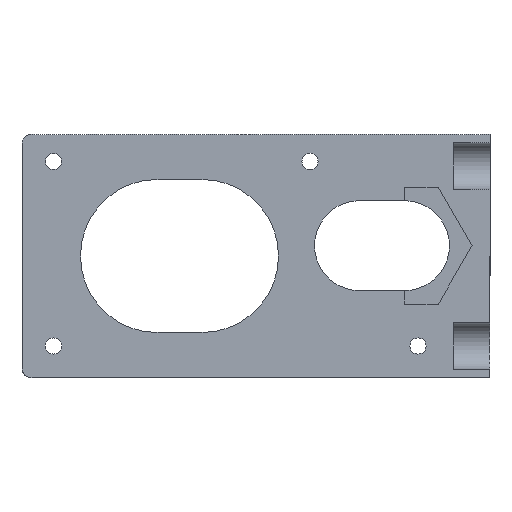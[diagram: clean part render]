
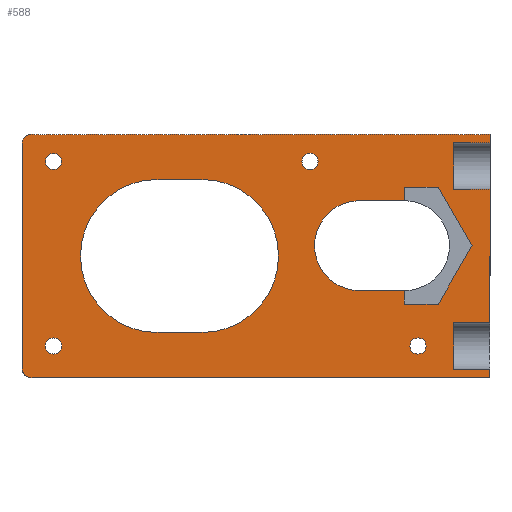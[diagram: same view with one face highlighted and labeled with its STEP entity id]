
A CAD part, left-side view. The second image highlights one B-rep face of the part: STEP entity #588.
In plain terms, the highlighted planar face has unit normal (-1, 0, 0).
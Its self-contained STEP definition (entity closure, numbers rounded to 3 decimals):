
#15=FACE_BOUND('',#108,.T.);
#16=FACE_BOUND('',#109,.T.);
#17=FACE_BOUND('',#110,.T.);
#18=FACE_BOUND('',#111,.T.);
#19=FACE_BOUND('',#112,.T.);
#20=FACE_BOUND('',#113,.T.);
#31=PLANE('',#644);
#50=CIRCLE('',#641,1.);
#51=CIRCLE('',#643,1.);
#52=CIRCLE('',#645,8.5);
#53=CIRCLE('',#646,8.5);
#54=CIRCLE('',#647,5.);
#55=CIRCLE('',#648,0.9);
#56=CIRCLE('',#649,0.9);
#57=CIRCLE('',#650,0.9);
#58=CIRCLE('',#651,0.9);
#75=FACE_OUTER_BOUND('',#107,.T.);
#107=EDGE_LOOP('',(#420,#421,#422,#423,#424,#425,#426,#427,#428,#429,#430,
#431,#432,#433));
#108=EDGE_LOOP('',(#434,#435,#436,#437));
#109=EDGE_LOOP('',(#438,#439,#440,#441,#442,#443,#444,#445,#446));
#110=EDGE_LOOP('',(#447));
#111=EDGE_LOOP('',(#448));
#112=EDGE_LOOP('',(#449));
#113=EDGE_LOOP('',(#450));
#160=LINE('',#888,#218);
#161=LINE('',#890,#219);
#162=LINE('',#892,#220);
#163=LINE('',#894,#221);
#164=LINE('',#896,#222);
#165=LINE('',#898,#223);
#166=LINE('',#900,#224);
#167=LINE('',#902,#225);
#168=LINE('',#904,#226);
#169=LINE('',#906,#227);
#170=LINE('',#908,#228);
#171=LINE('',#909,#229);
#172=LINE('',#914,#230);
#173=LINE('',#917,#231);
#174=LINE('',#920,#232);
#175=LINE('',#922,#233);
#176=LINE('',#924,#234);
#177=LINE('',#926,#235);
#178=LINE('',#928,#236);
#179=LINE('',#930,#237);
#180=LINE('',#932,#238);
#181=LINE('',#935,#239);
#218=VECTOR('',#717,10.);
#219=VECTOR('',#718,10.);
#220=VECTOR('',#719,10.);
#221=VECTOR('',#720,10.);
#222=VECTOR('',#721,10.);
#223=VECTOR('',#722,10.);
#224=VECTOR('',#723,10.);
#225=VECTOR('',#724,10.);
#226=VECTOR('',#725,10.);
#227=VECTOR('',#726,10.);
#228=VECTOR('',#727,10.);
#229=VECTOR('',#728,10.);
#230=VECTOR('',#731,10.);
#231=VECTOR('',#734,10.);
#232=VECTOR('',#735,10.);
#233=VECTOR('',#736,10.);
#234=VECTOR('',#737,10.);
#235=VECTOR('',#738,10.);
#236=VECTOR('',#739,10.);
#237=VECTOR('',#740,10.);
#238=VECTOR('',#741,10.);
#239=VECTOR('',#744,10.);
#274=VERTEX_POINT('',#876);
#275=VERTEX_POINT('',#878);
#276=VERTEX_POINT('',#882);
#277=VERTEX_POINT('',#884);
#278=VERTEX_POINT('',#889);
#279=VERTEX_POINT('',#891);
#280=VERTEX_POINT('',#893);
#281=VERTEX_POINT('',#895);
#282=VERTEX_POINT('',#897);
#283=VERTEX_POINT('',#899);
#284=VERTEX_POINT('',#901);
#285=VERTEX_POINT('',#903);
#286=VERTEX_POINT('',#905);
#287=VERTEX_POINT('',#907);
#288=VERTEX_POINT('',#910);
#289=VERTEX_POINT('',#911);
#290=VERTEX_POINT('',#913);
#291=VERTEX_POINT('',#915);
#292=VERTEX_POINT('',#918);
#293=VERTEX_POINT('',#919);
#294=VERTEX_POINT('',#921);
#295=VERTEX_POINT('',#923);
#296=VERTEX_POINT('',#925);
#297=VERTEX_POINT('',#927);
#298=VERTEX_POINT('',#929);
#299=VERTEX_POINT('',#931);
#300=VERTEX_POINT('',#933);
#301=VERTEX_POINT('',#936);
#302=VERTEX_POINT('',#938);
#303=VERTEX_POINT('',#940);
#304=VERTEX_POINT('',#942);
#332=EDGE_CURVE('',#274,#275,#50,.T.);
#335=EDGE_CURVE('',#276,#277,#51,.T.);
#336=EDGE_CURVE('',#274,#277,#160,.T.);
#337=EDGE_CURVE('',#278,#275,#161,.T.);
#338=EDGE_CURVE('',#279,#278,#162,.T.);
#339=EDGE_CURVE('',#280,#279,#163,.T.);
#340=EDGE_CURVE('',#281,#280,#164,.T.);
#341=EDGE_CURVE('',#282,#281,#165,.T.);
#342=EDGE_CURVE('',#283,#282,#166,.T.);
#343=EDGE_CURVE('',#284,#283,#167,.T.);
#344=EDGE_CURVE('',#285,#284,#168,.T.);
#345=EDGE_CURVE('',#286,#285,#169,.T.);
#346=EDGE_CURVE('',#287,#286,#170,.T.);
#347=EDGE_CURVE('',#276,#287,#171,.T.);
#348=EDGE_CURVE('',#288,#289,#52,.T.);
#349=EDGE_CURVE('',#290,#288,#172,.T.);
#350=EDGE_CURVE('',#291,#290,#53,.T.);
#351=EDGE_CURVE('',#289,#291,#173,.T.);
#352=EDGE_CURVE('',#292,#293,#174,.T.);
#353=EDGE_CURVE('',#294,#292,#175,.T.);
#354=EDGE_CURVE('',#295,#294,#176,.T.);
#355=EDGE_CURVE('',#296,#295,#177,.T.);
#356=EDGE_CURVE('',#297,#296,#178,.T.);
#357=EDGE_CURVE('',#298,#297,#179,.T.);
#358=EDGE_CURVE('',#299,#298,#180,.T.);
#359=EDGE_CURVE('',#300,#299,#54,.T.);
#360=EDGE_CURVE('',#293,#300,#181,.T.);
#361=EDGE_CURVE('',#301,#301,#55,.T.);
#362=EDGE_CURVE('',#302,#302,#56,.T.);
#363=EDGE_CURVE('',#303,#303,#57,.T.);
#364=EDGE_CURVE('',#304,#304,#58,.T.);
#420=ORIENTED_EDGE('',*,*,#335,.T.);
#421=ORIENTED_EDGE('',*,*,#336,.F.);
#422=ORIENTED_EDGE('',*,*,#332,.T.);
#423=ORIENTED_EDGE('',*,*,#337,.F.);
#424=ORIENTED_EDGE('',*,*,#338,.F.);
#425=ORIENTED_EDGE('',*,*,#339,.F.);
#426=ORIENTED_EDGE('',*,*,#340,.F.);
#427=ORIENTED_EDGE('',*,*,#341,.F.);
#428=ORIENTED_EDGE('',*,*,#342,.F.);
#429=ORIENTED_EDGE('',*,*,#343,.F.);
#430=ORIENTED_EDGE('',*,*,#344,.F.);
#431=ORIENTED_EDGE('',*,*,#345,.F.);
#432=ORIENTED_EDGE('',*,*,#346,.F.);
#433=ORIENTED_EDGE('',*,*,#347,.F.);
#434=ORIENTED_EDGE('',*,*,#348,.F.);
#435=ORIENTED_EDGE('',*,*,#349,.F.);
#436=ORIENTED_EDGE('',*,*,#350,.F.);
#437=ORIENTED_EDGE('',*,*,#351,.F.);
#438=ORIENTED_EDGE('',*,*,#352,.F.);
#439=ORIENTED_EDGE('',*,*,#353,.F.);
#440=ORIENTED_EDGE('',*,*,#354,.F.);
#441=ORIENTED_EDGE('',*,*,#355,.F.);
#442=ORIENTED_EDGE('',*,*,#356,.F.);
#443=ORIENTED_EDGE('',*,*,#357,.F.);
#444=ORIENTED_EDGE('',*,*,#358,.F.);
#445=ORIENTED_EDGE('',*,*,#359,.F.);
#446=ORIENTED_EDGE('',*,*,#360,.F.);
#447=ORIENTED_EDGE('',*,*,#361,.F.);
#448=ORIENTED_EDGE('',*,*,#362,.F.);
#449=ORIENTED_EDGE('',*,*,#363,.F.);
#450=ORIENTED_EDGE('',*,*,#364,.F.);
#588=ADVANCED_FACE('',(#75,#15,#16,#17,#18,#19,#20),#31,.F.);
#641=AXIS2_PLACEMENT_3D('',#880,#707,#708);
#643=AXIS2_PLACEMENT_3D('',#886,#713,#714);
#644=AXIS2_PLACEMENT_3D('',#887,#715,#716);
#645=AXIS2_PLACEMENT_3D('',#912,#729,#730);
#646=AXIS2_PLACEMENT_3D('',#916,#732,#733);
#647=AXIS2_PLACEMENT_3D('',#934,#742,#743);
#648=AXIS2_PLACEMENT_3D('',#937,#745,#746);
#649=AXIS2_PLACEMENT_3D('',#939,#747,#748);
#650=AXIS2_PLACEMENT_3D('',#941,#749,#750);
#651=AXIS2_PLACEMENT_3D('',#943,#751,#752);
#707=DIRECTION('center_axis',(-1.,0.,0.));
#708=DIRECTION('ref_axis',(0.,0.707,-0.707));
#713=DIRECTION('center_axis',(-1.,0.,0.));
#714=DIRECTION('ref_axis',(0.,0.707,0.707));
#715=DIRECTION('center_axis',(1.,0.,0.));
#716=DIRECTION('ref_axis',(0.,0.,-1.));
#717=DIRECTION('',(0.,0.,1.));
#718=DIRECTION('',(0.,1.,0.));
#719=DIRECTION('',(0.,0.,-1.));
#720=DIRECTION('',(0.,-1.,0.));
#721=DIRECTION('',(0.,0.,-1.));
#722=DIRECTION('',(0.,1.,0.));
#723=DIRECTION('',(0.,0.,-1.));
#724=DIRECTION('',(0.,-1.,0.));
#725=DIRECTION('',(0.,0.,-1.));
#726=DIRECTION('',(0.,1.,0.));
#727=DIRECTION('',(0.,0.,-1.));
#728=DIRECTION('',(0.,-1.,0.));
#729=DIRECTION('center_axis',(-1.,0.,0.));
#730=DIRECTION('ref_axis',(0.,0.,1.));
#731=DIRECTION('',(0.,-1.,0.));
#732=DIRECTION('center_axis',(-1.,0.,0.));
#733=DIRECTION('ref_axis',(0.,0.,-1.));
#734=DIRECTION('',(0.,1.,0.));
#735=DIRECTION('',(0.,0.,-1.));
#736=DIRECTION('',(0.,1.,0.));
#737=DIRECTION('',(0.,0.5,0.866));
#738=DIRECTION('',(0.,-0.5,0.866));
#739=DIRECTION('',(0.,-1.,0.));
#740=DIRECTION('',(0.,0.,-1.));
#741=DIRECTION('',(0.,-1.,0.));
#742=DIRECTION('center_axis',(-1.,0.,0.));
#743=DIRECTION('ref_axis',(0.,0.,-1.));
#744=DIRECTION('',(0.,1.,0.));
#745=DIRECTION('center_axis',(-1.,0.,0.));
#746=DIRECTION('ref_axis',(0.,1.,0.));
#747=DIRECTION('center_axis',(-1.,0.,0.));
#748=DIRECTION('ref_axis',(0.,1.,0.));
#749=DIRECTION('center_axis',(-1.,0.,0.));
#750=DIRECTION('ref_axis',(0.,1.,0.));
#751=DIRECTION('center_axis',(-1.,0.,0.));
#752=DIRECTION('ref_axis',(0.,1.,0.));
#876=CARTESIAN_POINT('',(-5.,52.,1.));
#878=CARTESIAN_POINT('',(-5.,51.,0.));
#880=CARTESIAN_POINT('Origin',(-5.,51.,1.));
#882=CARTESIAN_POINT('',(-5.,51.,27.));
#884=CARTESIAN_POINT('',(-5.,52.,26.));
#886=CARTESIAN_POINT('Origin',(-5.,51.,26.));
#887=CARTESIAN_POINT('Origin',(-5.,26.,13.5));
#888=CARTESIAN_POINT('',(-5.,52.,0.));
#889=CARTESIAN_POINT('',(-5.,0.,0.));
#890=CARTESIAN_POINT('',(-5.,0.,0.));
#891=CARTESIAN_POINT('',(-5.,0.,0.9));
#892=CARTESIAN_POINT('',(-5.,0.,27.));
#893=CARTESIAN_POINT('',(-5.,4.,0.9));
#894=CARTESIAN_POINT('',(-5.,0.,0.9));
#895=CARTESIAN_POINT('',(-5.,4.,6.1));
#896=CARTESIAN_POINT('',(-5.,4.,8.5));
#897=CARTESIAN_POINT('',(-5.,0.,6.1));
#898=CARTESIAN_POINT('',(-5.,0.,6.1));
#899=CARTESIAN_POINT('',(-5.,0.,20.9));
#900=CARTESIAN_POINT('',(-5.,0.,27.));
#901=CARTESIAN_POINT('',(-5.,4.,20.9));
#902=CARTESIAN_POINT('',(-5.,0.,20.9));
#903=CARTESIAN_POINT('',(-5.,4.,26.1));
#904=CARTESIAN_POINT('',(-5.,4.,18.5));
#905=CARTESIAN_POINT('',(-5.,0.,26.1));
#906=CARTESIAN_POINT('',(-5.,0.,26.1));
#907=CARTESIAN_POINT('',(-5.,0.,27.));
#908=CARTESIAN_POINT('',(-5.,0.,27.));
#909=CARTESIAN_POINT('',(-5.,52.,27.));
#910=CARTESIAN_POINT('',(-5.,32.,5.));
#911=CARTESIAN_POINT('',(-5.,32.,22.));
#912=CARTESIAN_POINT('Origin',(-5.,32.,13.5));
#913=CARTESIAN_POINT('',(-5.,37.,5.));
#914=CARTESIAN_POINT('',(-5.,29.,5.));
#915=CARTESIAN_POINT('',(-5.,37.,22.));
#916=CARTESIAN_POINT('Origin',(-5.,37.,13.5));
#917=CARTESIAN_POINT('',(-5.,31.5,22.));
#918=CARTESIAN_POINT('',(-5.,9.5,21.15));
#919=CARTESIAN_POINT('',(-5.,9.5,19.65));
#920=CARTESIAN_POINT('',(-5.,9.5,17.325));
#921=CARTESIAN_POINT('',(-5.,5.747,21.15));
#922=CARTESIAN_POINT('',(-5.,15.874,21.15));
#923=CARTESIAN_POINT('',(-5.,1.994,14.65));
#924=CARTESIAN_POINT('',(-5.,4.746,19.416));
#925=CARTESIAN_POINT('',(-5.,5.747,8.15));
#926=CARTESIAN_POINT('',(-5.,7.121,5.771));
#927=CARTESIAN_POINT('',(-5.,9.5,8.15));
#928=CARTESIAN_POINT('',(-5.,17.75,8.15));
#929=CARTESIAN_POINT('',(-5.,9.5,9.65));
#930=CARTESIAN_POINT('',(-5.,9.5,17.325));
#931=CARTESIAN_POINT('',(-5.,14.5,9.65));
#932=CARTESIAN_POINT('',(-5.,17.75,9.65));
#933=CARTESIAN_POINT('',(-5.,14.5,19.65));
#934=CARTESIAN_POINT('Origin',(-5.,14.5,14.65));
#935=CARTESIAN_POINT('',(-5.,20.25,19.65));
#936=CARTESIAN_POINT('',(-5.,7.1,3.5));
#937=CARTESIAN_POINT('Origin',(-5.,8.,3.5));
#938=CARTESIAN_POINT('',(-5.,47.6,24.));
#939=CARTESIAN_POINT('Origin',(-5.,48.5,24.));
#940=CARTESIAN_POINT('',(-5.,19.1,24.));
#941=CARTESIAN_POINT('Origin',(-5.,20.,24.));
#942=CARTESIAN_POINT('',(-5.,47.6,3.5));
#943=CARTESIAN_POINT('Origin',(-5.,48.5,3.5));
